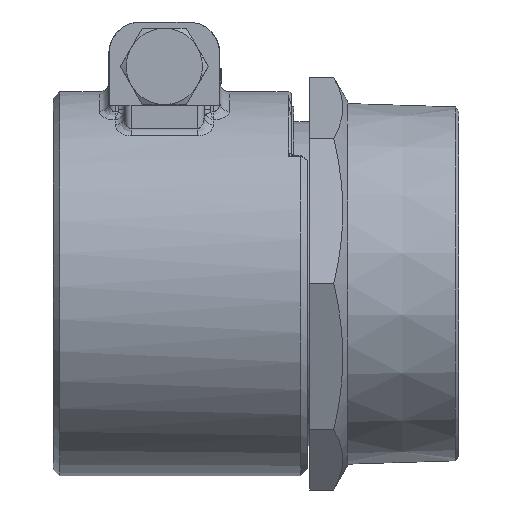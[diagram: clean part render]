
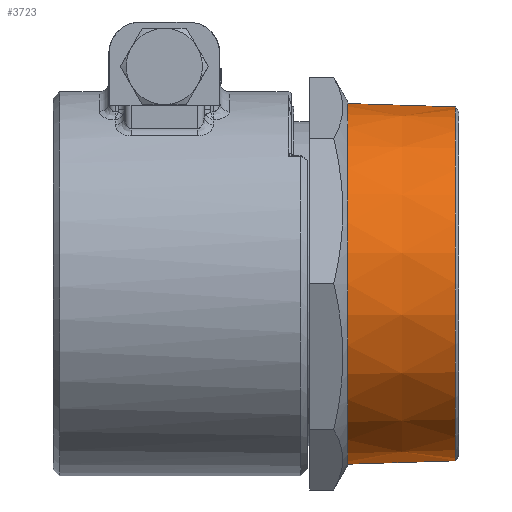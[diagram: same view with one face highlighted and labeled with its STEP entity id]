
A CAD part, left-side view. The second image highlights one B-rep face of the part: STEP entity #3723.
In plain terms, the highlighted conical face has half-angle 1.783 degrees and reference radius 55.745 mm.
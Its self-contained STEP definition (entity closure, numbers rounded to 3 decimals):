
#118 = AXIS2_PLACEMENT_3D ( 'NONE', #6845, #10253, #1312 ) ;
#158 = EDGE_CURVE ( 'NONE', #11887, #13523, #5347, .T. ) ;
#506 = CARTESIAN_POINT ( 'NONE',  ( 0., 1.05, 0. ) ) ;
#756 = DIRECTION ( 'NONE',  ( 0., -1., 0. ) ) ;
#1312 = DIRECTION ( 'NONE',  ( 0., 0., 1. ) ) ;
#1628 = VECTOR ( 'NONE', #10592, 1000. ) ;
#1633 = DIRECTION ( 'NONE',  ( 0., 0., -1. ) ) ;
#2268 = AXIS2_PLACEMENT_3D ( 'NONE', #10673, #756, #5336 ) ;
#2610 = ORIENTED_EDGE ( 'NONE', *, *, #3849, .F. ) ;
#2872 = EDGE_CURVE ( 'NONE', #11151, #11887, #7911, .T. ) ;
#3238 = AXIS2_PLACEMENT_3D ( 'NONE', #506, #8306, #1633 ) ;
#3723 = ADVANCED_FACE ( 'NONE', ( #8075 ), #10701, .T. ) ;
#3849 = EDGE_CURVE ( 'NONE', #13829, #13523, #4578, .T. ) ;
#4238 = CARTESIAN_POINT ( 'NONE',  ( 0., 1.05, 55.745 ) ) ;
#4578 = LINE ( 'NONE', #9487, #1628 ) ;
#5336 = DIRECTION ( 'NONE',  ( 0., 0., -1. ) ) ;
#5347 = CIRCLE ( 'NONE', #2268, 56.802 ) ;
#5841 = CARTESIAN_POINT ( 'NONE',  ( 0., 1.05, -55.745 ) ) ;
#6845 = CARTESIAN_POINT ( 'NONE',  ( 0., 1.05, 0. ) ) ;
#7277 = ORIENTED_EDGE ( 'NONE', *, *, #2872, .T. ) ;
#7500 = CARTESIAN_POINT ( 'NONE',  ( 0., 35., 56.802 ) ) ;
#7859 = EDGE_CURVE ( 'NONE', #11151, #13829, #12043, .T. ) ;
#7911 = LINE ( 'NONE', #4238, #10542 ) ;
#8075 = FACE_OUTER_BOUND ( 'NONE', #11993, .T. ) ;
#8306 = DIRECTION ( 'NONE',  ( 0., -1., 0. ) ) ;
#9487 = CARTESIAN_POINT ( 'NONE',  ( 0., 1.05, -55.745 ) ) ;
#9979 = CARTESIAN_POINT ( 'NONE',  ( 0., 1.05, 55.745 ) ) ;
#10253 = DIRECTION ( 'NONE',  ( 0., 1., 0. ) ) ;
#10542 = VECTOR ( 'NONE', #10956, 1000. ) ;
#10592 = DIRECTION ( 'NONE',  ( 0., 1., -0.031 ) ) ;
#10673 = CARTESIAN_POINT ( 'NONE',  ( 0., 35., 0. ) ) ;
#10701 = CONICAL_SURFACE ( 'NONE', #118, 55.745, 0.031 ) ;
#10956 = DIRECTION ( 'NONE',  ( 0., 1., 0.031 ) ) ;
#11151 = VERTEX_POINT ( 'NONE', #9979 ) ;
#11887 = VERTEX_POINT ( 'NONE', #7500 ) ;
#11993 = EDGE_LOOP ( 'NONE', ( #2610, #14069, #7277, #14305 ) ) ;
#12001 = CARTESIAN_POINT ( 'NONE',  ( 0., 35., -56.802 ) ) ;
#12043 = CIRCLE ( 'NONE', #3238, 55.745 ) ;
#13523 = VERTEX_POINT ( 'NONE', #12001 ) ;
#13829 = VERTEX_POINT ( 'NONE', #5841 ) ;
#14069 = ORIENTED_EDGE ( 'NONE', *, *, #7859, .F. ) ;
#14305 = ORIENTED_EDGE ( 'NONE', *, *, #158, .T. ) ;
